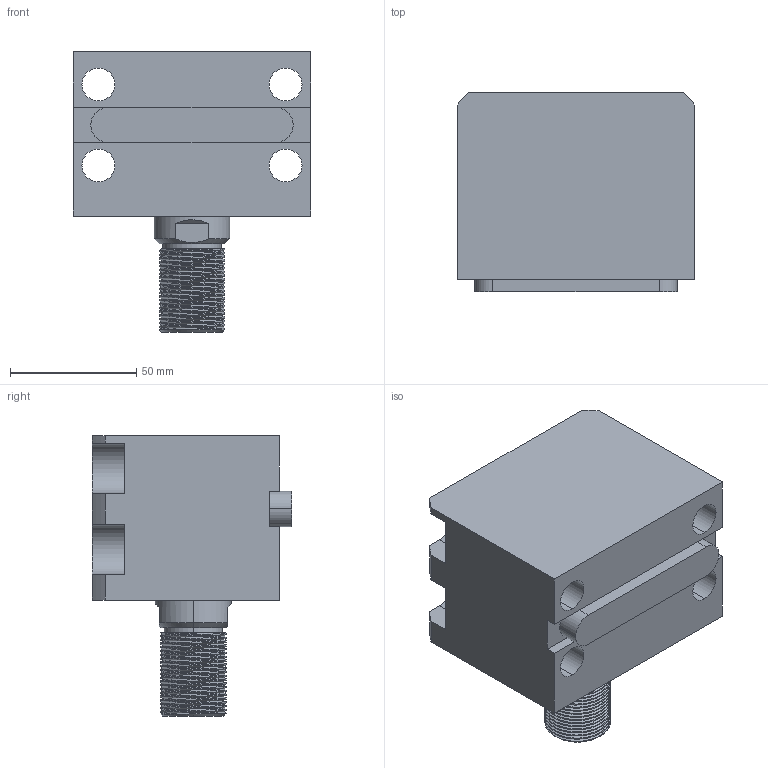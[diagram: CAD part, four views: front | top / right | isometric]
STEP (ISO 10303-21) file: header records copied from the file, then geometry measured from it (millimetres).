
FILE_DESCRIPTION (( 'STEP AP203' ), '1' );
FILE_NAME ('CHTB-LA50-5W.STEP', '2018-05-18T00:14:39', ( '' ), ( '' ), 'SwSTEP 2.0', 'SolidWorks 2015', '' );
FILE_SCHEMA (( 'CONFIG_CONTROL_DESIGN' ));
Length unit declared in the file: millimetre
Products named in the file (4): 掛极LA50-5W; 活塞杆LA50-5W; CHTB-LA50-5W; CHTM-SDMA50QG
Assembly tree (3 placements, depth 2):
  CHTB-LA50-5W
    掛极LA50-5W
    CHTM-SDMA50QG
    活塞杆LA50-5W
Bounding box: 94 x 79 x 111 mm (x, y, z)
Volume: 416858 mm3; surface area: 89706.7 mm2
Topology: 3 solids, 3 shells, 245 faces, 671 edges, 447 vertices
Faces by surface type: cylinder 136, plane 56, cone 21, bspline 16, torus 16
Entity records: 14999 total; most frequent: CARTESIAN_POINT 8836, ORIENTED_EDGE 1334, DIRECTION 1079, EDGE_CURVE 667, VERTEX_POINT 447, AXIS2_PLACEMENT_3D 417, EDGE_LOOP 278, FACE_OUTER_BOUND 245
